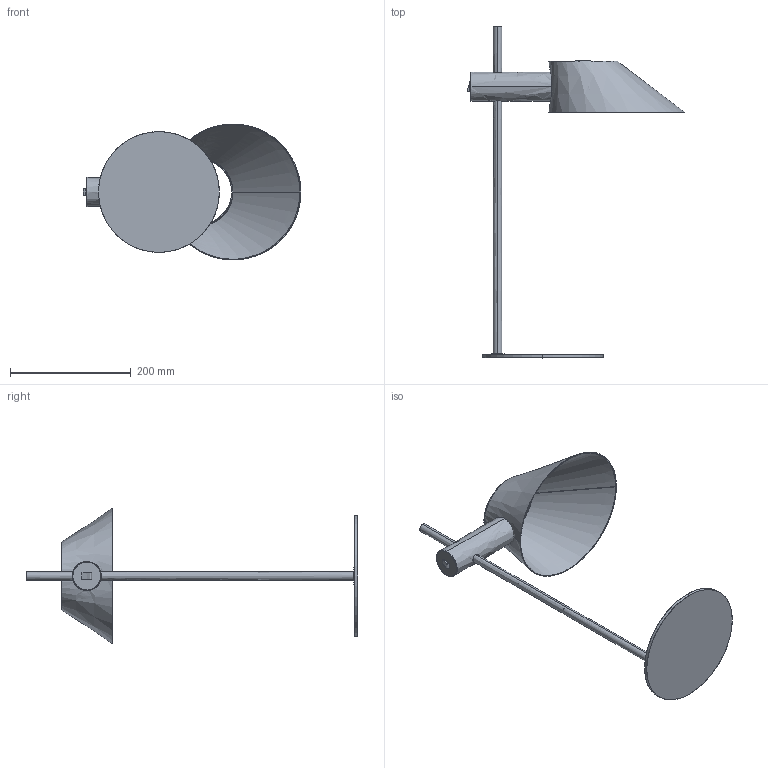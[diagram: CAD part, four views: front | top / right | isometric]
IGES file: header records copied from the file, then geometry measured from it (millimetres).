
Start section: SolidWorks IGES file using analytic representation for surfaces
Global section: file name: C:\Users\Agus\Desktop\Libreria modelos\S1196\S1196.IGS; native system: SolidWorks 2016; preprocessor: SolidWorks 2016; author: Agus; date: 171006.182728; units: millimetre
Bounding box: 360.59 x 549.2 x 225 mm (x, y, z)
Surface area: 226333.8 mm2 (no closed solid volume)
Topology: 0 solids, 0 shells, 46 faces, 1360 edges, 1360 vertices
Faces by surface type: bspline 30, revolution 16
